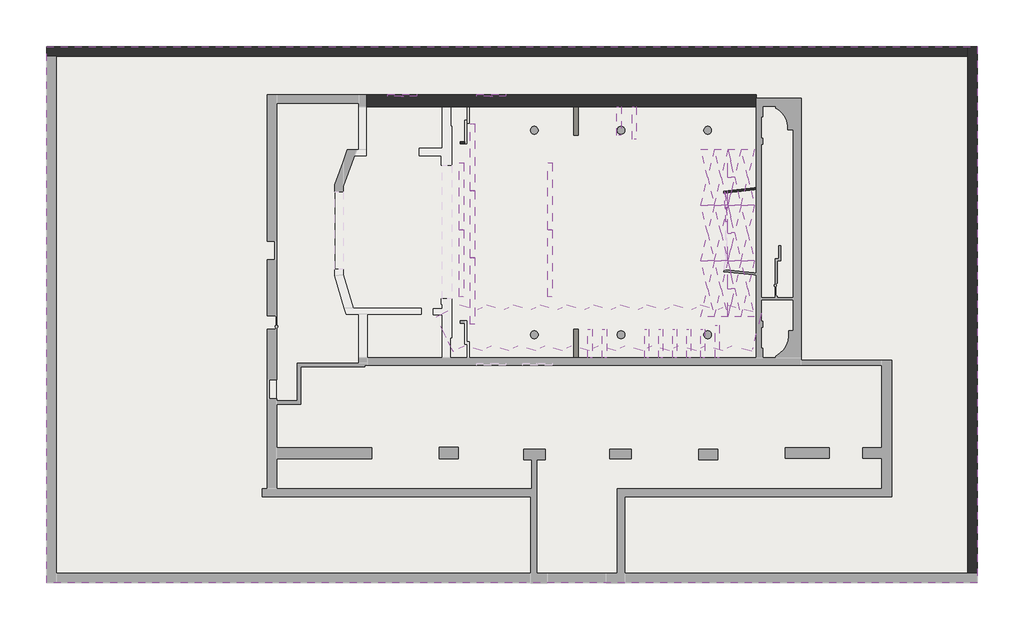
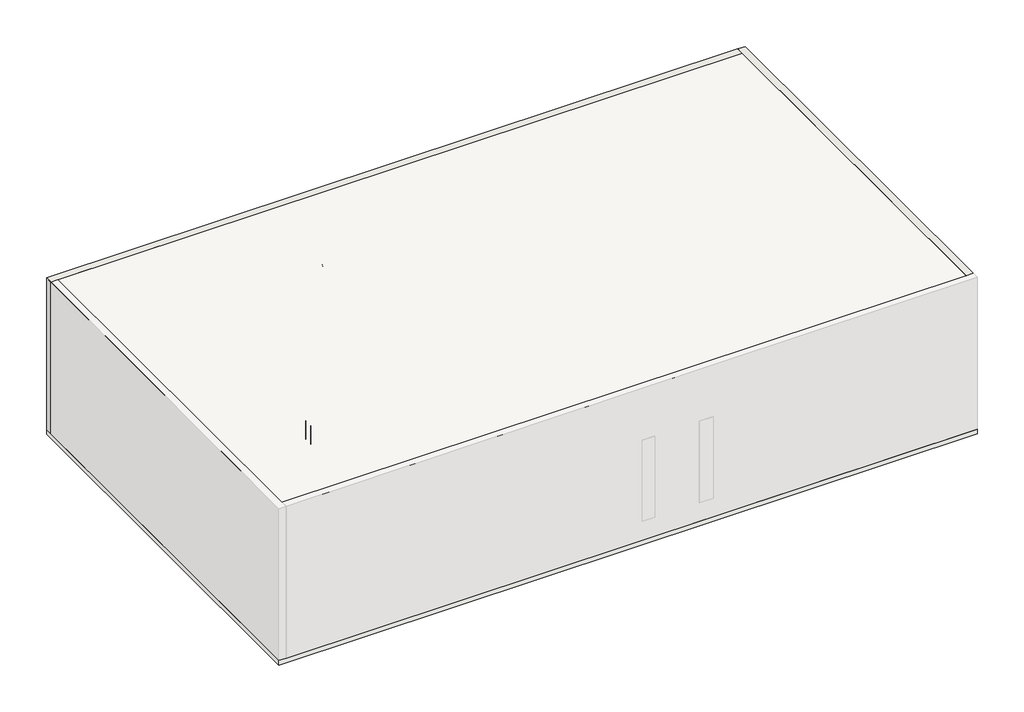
# One storey, part 2 of 2: 33 proxies, 14 slabs, 7 walls, 5 members, 2 doors.
"""IFC4 building model written with IfcOpenShell, lengths in millimetres."""

from ifc_helpers import new_model, si_unit, frame, origin, origin_with_axes, place, context, project, spatial, polyline, outline, extrude, faceted_brep, transform, mapped, element, save
from components import generic_models_0603ff23, generic_models_7f1d2376, generic_models_568cdfc9, generic_models_8c97f6f7, generic_models_10ad3b08, generic_models_ae4b16b1, generic_models_bff7fd6b, generic_models_0b0fc4db, generic_models_c0e9c4ef, generic_models_60d21524, generic_models_dc20eb05, door_110_110_x_220_7d12fde9, rectangular_mullion_50mm_x_65mm_85f5c3ba, rectangular_mullion_50mm_x_65mm_dd78f4de, rectangular_mullion_50mm_x_65mm_76db42fe

model = new_model("IFC4")

# Units and contexts
model_context = context("Model", 3, world=origin())
ifc_project = project(units=[si_unit("LENGTHUNIT", "METRE", prefix="MILLI")], contexts=[model_context])

# Site, building, storey
site = spatial("IfcSite", under=ifc_project)
building = spatial("IfcBuilding", under=site)
storey = spatial("IfcBuildingStorey", under=building, Name="0 NISKI PARTER", Elevation=-1240.0)

# Proxies
placement = place(None, origin())
generic_models_shape = generic_models_0603ff23(model_context)
element("IfcBuildingElementProxy", 1, Name="sztankiet : sztankiet", ObjectType="sztankiet : sztankiet", at=placement, inside=storey, context=model_context, shape_type="MappedRepresentation", body=[
    mapped(generic_models_shape, transform((139183.8729089, 57609.8940071, 0.0), x_axis=(1.0, 0.0, 0.0), y_axis=(0.0, 1.0, 0.0), z_axis=(0.0, 0.0, 1.0))),
])
generic_models_2_shape = generic_models_7f1d2376(model_context)
element("IfcBuildingElementProxy", 2, Name="sztankiet : sztankiet", ObjectType="sztankiet : sztankiet", at=placement, inside=storey, context=model_context, shape_type="MappedRepresentation", body=[
    mapped(generic_models_2_shape, transform((139183.8729089, 62609.8940071, 0.0), x_axis=(1.0, 0.0, 0.0), y_axis=(0.0, 1.0, 0.0), z_axis=(0.0, 0.0, 1.0))),
])
element("IfcBuildingElementProxy", 3, Name="sztankiet : sztankiet", ObjectType="sztankiet : sztankiet", at=placement, inside=storey, context=model_context, shape_type="MappedRepresentation", body=[
    mapped(generic_models_2_shape, transform((133380.4151146, 65525.8005963, 0.0), x_axis=(1.0, 0.0, 0.0), y_axis=(0.0, 1.0, 0.0), z_axis=(0.0, 0.0, 1.0))),
])
element("IfcBuildingElementProxy", 4, Name="sztankiet : sztankiet", ObjectType="sztankiet : sztankiet", at=placement, inside=storey, context=model_context, shape_type="MappedRepresentation", body=[
    mapped(generic_models_2_shape, transform((132580.4151146, 62609.8940071, 0.0), x_axis=(1.0, 0.0, 0.0), y_axis=(0.0, 1.0, 0.0), z_axis=(0.0, 0.0, 1.0))),
])
element("IfcBuildingElementProxy", 5, Name="sztankiet : sztankiet", ObjectType="sztankiet : sztankiet", at=placement, inside=storey, context=model_context, shape_type="MappedRepresentation", body=[
    mapped(generic_models_2_shape, transform((132580.4151146, 57609.8940071, 0.0), x_axis=(1.0, 0.0, 0.0), y_axis=(0.0, 1.0, 0.0), z_axis=(0.0, 0.0, 1.0))),
])
element("IfcBuildingElementProxy", 6, Name="sztankiet : sztankiet", ObjectType="sztankiet : sztankiet", at=placement, inside=storey, context=model_context, shape_type="MappedRepresentation", body=[
    mapped(generic_models_2_shape, transform((133380.4151146, 60525.8005963, 0.0), x_axis=(1.0, 0.0, 0.0), y_axis=(0.0, 1.0, 0.0), z_axis=(0.0, 0.0, 1.0))),
])
element("IfcBuildingElementProxy", 7, Name="sztankiet : sztankiet", ObjectType="sztankiet : sztankiet", at=placement, inside=storey, context=model_context, shape_type="MappedRepresentation", body=[
    mapped(generic_models_2_shape, transform((133380.4151146, 55525.8005963, 0.0), x_axis=(1.0, 0.0, 0.0), y_axis=(0.0, 1.0, 0.0), z_axis=(0.0, 0.0, 1.0))),
])
generic_models_3_shape = generic_models_568cdfc9(model_context)
element("IfcBuildingElementProxy", 8, Name="panel sufitowy 6 : panel sufitowy 6", ObjectType="panel sufitowy 6 : panel sufitowy 6", at=placement, inside=storey, context=model_context, shape_type="MappedRepresentation", body=[
    mapped(generic_models_3_shape, transform((154720.8729089, 50845.1997788, 5584.4603744), x_axis=(-1.0, 0.0, 0.0), y_axis=(0.0, -1.0, 0.0), z_axis=(0.0, 0.0, 1.0))),
])
element("IfcBuildingElementProxy", 9, Name="panel sufitowy 6 : panel sufitowy 6", ObjectType="panel sufitowy 6 : panel sufitowy 6", at=placement, inside=storey, context=model_context, shape_type="MappedRepresentation", body=[
    mapped(generic_models_3_shape, transform((154720.8729089, 55023.9981439, 5584.4603744), x_axis=(-1.0, 0.0, 0.0), y_axis=(0.0, -1.0, 0.0), z_axis=(0.0, 0.0, 1.0))),
])
element("IfcBuildingElementProxy", 10, Name="panel sufitowy 6 : panel sufitowy 6", ObjectType="panel sufitowy 6 : panel sufitowy 6", at=placement, inside=storey, context=model_context, shape_type="MappedRepresentation", body=[
    mapped(generic_models_3_shape, transform((154720.8729089, 59202.796509, 5584.4603744), x_axis=(-1.0, 0.0, 0.0), y_axis=(0.0, -1.0, 0.0), z_axis=(0.0, 0.0, 1.0))),
])
generic_models_4_shape = generic_models_8c97f6f7(model_context)
element("IfcBuildingElementProxy", 11, Name="panel sufitowy 6 : panel sufitowy 6", ObjectType="panel sufitowy 6 : panel sufitowy 6", at=placement, inside=storey, context=model_context, shape_type="MappedRepresentation", body=[
    mapped(generic_models_4_shape, transform((152745.9739623, 55525.1997788, 5102.9859098), x_axis=(-1.0, 0.0, 0.0), y_axis=(0.0, -1.0, 0.0), z_axis=(0.0, 0.0, 1.0))),
])
element("IfcBuildingElementProxy", 12, Name="panel sufitowy 6 : panel sufitowy 6", ObjectType="panel sufitowy 6 : panel sufitowy 6", at=placement, inside=storey, context=model_context, shape_type="MappedRepresentation", body=[
    mapped(generic_models_4_shape, transform((152745.9739623, 59703.9981439, 5102.9859098), x_axis=(-1.0, 0.0, 0.0), y_axis=(0.0, -1.0, 0.0), z_axis=(0.0, 0.0, 1.0))),
])
element("IfcBuildingElementProxy", 13, Name="panel sufitowy 6 : panel sufitowy 6", ObjectType="panel sufitowy 6 : panel sufitowy 6", at=placement, inside=storey, context=model_context, shape_type="MappedRepresentation", body=[
    mapped(generic_models_4_shape, transform((152745.9739623, 63882.796509, 5102.9859098), x_axis=(-1.0, 0.0, 0.0), y_axis=(0.0, -1.0, 0.0), z_axis=(0.0, 0.0, 1.0))),
])
generic_models_5_shape = generic_models_10ad3b08(model_context)
element("IfcBuildingElementProxy", 14, Name="panel sufitowy 6 : panel sufitowy 6", ObjectType="panel sufitowy 6 : panel sufitowy 6", at=placement, inside=storey, context=model_context, shape_type="MappedRepresentation", body=[
    mapped(generic_models_5_shape, transform((153743.8729089, 55525.1997788, 5298.4152581), x_axis=(-1.0, 0.0, 0.0), y_axis=(0.0, -1.0, 0.0), z_axis=(0.0, 0.0, 1.0))),
])
element("IfcBuildingElementProxy", 15, Name="panel sufitowy 6 : panel sufitowy 6", ObjectType="panel sufitowy 6 : panel sufitowy 6", at=placement, inside=storey, context=model_context, shape_type="MappedRepresentation", body=[
    mapped(generic_models_5_shape, transform((153743.8729089, 59703.9981439, 5298.4152581), x_axis=(-1.0, 0.0, 0.0), y_axis=(0.0, -1.0, 0.0), z_axis=(0.0, 0.0, 1.0))),
])
element("IfcBuildingElementProxy", 16, Name="panel sufitowy 6 : panel sufitowy 6", ObjectType="panel sufitowy 6 : panel sufitowy 6", at=placement, inside=storey, context=model_context, shape_type="MappedRepresentation", body=[
    mapped(generic_models_5_shape, transform((153743.8729089, 63882.796509, 5298.4152581), x_axis=(-1.0, 0.0, 0.0), y_axis=(0.0, -1.0, 0.0), z_axis=(0.0, 0.0, 1.0))),
])
generic_models_6_shape = generic_models_ae4b16b1(model_context)
element("IfcBuildingElementProxy", 17, Name="panel sufitowy 6 : panel sufitowy 6", ObjectType="panel sufitowy 6 : panel sufitowy 6", at=placement, inside=storey, context=model_context, shape_type="MappedRepresentation", body=[
    mapped(generic_models_6_shape, transform((152745.9739623, 50845.1997788, 5102.9859098), x_axis=(-1.0, 0.0, 0.0), y_axis=(0.0, -1.0, 0.0), z_axis=(0.0, 0.0, 1.0))),
])
element("IfcBuildingElementProxy", 18, Name="panel sufitowy 6 : panel sufitowy 6", ObjectType="panel sufitowy 6 : panel sufitowy 6", at=placement, inside=storey, context=model_context, shape_type="MappedRepresentation", body=[
    mapped(generic_models_6_shape, transform((152745.9739623, 55023.9981439, 5102.9859098), x_axis=(-1.0, 0.0, 0.0), y_axis=(0.0, -1.0, 0.0), z_axis=(0.0, 0.0, 1.0))),
])
element("IfcBuildingElementProxy", 19, Name="panel sufitowy 6 : panel sufitowy 6", ObjectType="panel sufitowy 6 : panel sufitowy 6", at=placement, inside=storey, context=model_context, shape_type="MappedRepresentation", body=[
    mapped(generic_models_6_shape, transform((152745.9739623, 59202.796509, 5102.9859098), x_axis=(-1.0, 0.0, 0.0), y_axis=(0.0, -1.0, 0.0), z_axis=(0.0, 0.0, 1.0))),
])
generic_models_7_shape = generic_models_bff7fd6b(model_context)
element("IfcBuildingElementProxy", 20, Name="panel sufitowy 6 : panel sufitowy 6", ObjectType="panel sufitowy 6 : panel sufitowy 6", at=placement, inside=storey, context=model_context, shape_type="MappedRepresentation", body=[
    mapped(generic_models_7_shape, transform((153743.8729089, 50845.1997788, 5298.4152581), x_axis=(-1.0, 0.0, 0.0), y_axis=(0.0, -1.0, 0.0), z_axis=(0.0, 0.0, 1.0))),
])
element("IfcBuildingElementProxy", 21, Name="panel sufitowy 6 : panel sufitowy 6", ObjectType="panel sufitowy 6 : panel sufitowy 6", at=placement, inside=storey, context=model_context, shape_type="MappedRepresentation", body=[
    mapped(generic_models_7_shape, transform((153743.8729089, 55023.9981439, 5298.4152581), x_axis=(-1.0, 0.0, 0.0), y_axis=(0.0, -1.0, 0.0), z_axis=(0.0, 0.0, 1.0))),
])
element("IfcBuildingElementProxy", 22, Name="panel sufitowy 6 : panel sufitowy 6", ObjectType="panel sufitowy 6 : panel sufitowy 6", at=placement, inside=storey, context=model_context, shape_type="MappedRepresentation", body=[
    mapped(generic_models_7_shape, transform((153743.8729089, 59202.796509, 5298.4152581), x_axis=(-1.0, 0.0, 0.0), y_axis=(0.0, -1.0, 0.0), z_axis=(0.0, 0.0, 1.0))),
])
generic_models_8_shape = generic_models_0b0fc4db(model_context)
element("IfcBuildingElementProxy", 23, Name="Generic Models", at=placement, inside=storey, context=model_context, shape_type="MappedRepresentation", body=[
    mapped(generic_models_8_shape, transform((0.0, 0.0, 0.0), x_axis=(1.0, 0.0, 0.0), y_axis=(0.0, 1.0, 0.0), z_axis=(0.0, 0.0, 1.0))),
])
element("IfcBuildingElementProxy", 24, Name="Generic Models", at=placement, inside=storey, context=model_context, shape_type="MappedRepresentation", body=[
    mapped(generic_models_8_shape, transform((0.0, 0.0, 0.0), x_axis=(1.0, 0.0, 0.0), y_axis=(0.0, 1.0, 0.0), z_axis=(0.0, 0.0, 1.0))),
])
generic_models_9_shape = generic_models_c0e9c4ef(model_context)
element("IfcBuildingElementProxy", 25, Name="panel sufitowy 6 : panel sufitowy 6", ObjectType="panel sufitowy 6 : panel sufitowy 6", at=placement, inside=storey, context=model_context, shape_type="MappedRepresentation", body=[
    mapped(generic_models_9_shape, transform((154720.8729089, 55525.1997788, 5584.4603744), x_axis=(-1.0, 0.0, 0.0), y_axis=(0.0, -1.0, 0.0), z_axis=(0.0, 0.0, 1.0))),
])
element("IfcBuildingElementProxy", 26, Name="panel sufitowy 6 : panel sufitowy 6", ObjectType="panel sufitowy 6 : panel sufitowy 6", at=placement, inside=storey, context=model_context, shape_type="MappedRepresentation", body=[
    mapped(generic_models_9_shape, transform((154720.8729089, 59703.9981439, 5584.4603744), x_axis=(-1.0, 0.0, 0.0), y_axis=(0.0, -1.0, 0.0), z_axis=(0.0, 0.0, 1.0))),
])
element("IfcBuildingElementProxy", 27, Name="panel sufitowy 6 : panel sufitowy 6", ObjectType="panel sufitowy 6 : panel sufitowy 6", at=placement, inside=storey, context=model_context, shape_type="MappedRepresentation", body=[
    mapped(generic_models_9_shape, transform((154720.8729089, 63882.796509, 5584.4603744), x_axis=(-1.0, 0.0, 0.0), y_axis=(0.0, -1.0, 0.0), z_axis=(0.0, 0.0, 1.0))),
])
generic_models_10_shape = generic_models_60d21524(model_context)
element("IfcBuildingElementProxy", 28, Name="panel sufitowy 6 : panel sufitowy 6", ObjectType="panel sufitowy 6 : panel sufitowy 6", at=placement, inside=storey, context=model_context, shape_type="MappedRepresentation", body=[
    mapped(generic_models_10_shape, transform((151739.0367002, 55525.1997788, 4977.6048645), x_axis=(-1.0, 0.0, 0.0), y_axis=(0.0, -1.0, 0.0), z_axis=(0.0, 0.0, 1.0))),
])
element("IfcBuildingElementProxy", 29, Name="panel sufitowy 6 : panel sufitowy 6", ObjectType="panel sufitowy 6 : panel sufitowy 6", at=placement, inside=storey, context=model_context, shape_type="MappedRepresentation", body=[
    mapped(generic_models_10_shape, transform((151739.0367002, 59703.9981439, 4977.6048645), x_axis=(-1.0, 0.0, 0.0), y_axis=(0.0, -1.0, 0.0), z_axis=(0.0, 0.0, 1.0))),
])
element("IfcBuildingElementProxy", 30, Name="panel sufitowy 6 : panel sufitowy 6", ObjectType="panel sufitowy 6 : panel sufitowy 6", at=placement, inside=storey, context=model_context, shape_type="MappedRepresentation", body=[
    mapped(generic_models_10_shape, transform((151739.0367002, 63882.796509, 4977.6048645), x_axis=(-1.0, 0.0, 0.0), y_axis=(0.0, -1.0, 0.0), z_axis=(0.0, 0.0, 1.0))),
])
generic_models_11_shape = generic_models_dc20eb05(model_context)
element("IfcBuildingElementProxy", 31, Name="panel sufitowy 6 : panel sufitowy 6", ObjectType="panel sufitowy 6 : panel sufitowy 6", at=placement, inside=storey, context=model_context, shape_type="MappedRepresentation", body=[
    mapped(generic_models_11_shape, transform((151739.0367002, 50845.1997788, 4977.6048645), x_axis=(-1.0, 0.0, 0.0), y_axis=(0.0, -1.0, 0.0), z_axis=(0.0, 0.0, 1.0))),
])
element("IfcBuildingElementProxy", 32, Name="panel sufitowy 6 : panel sufitowy 6", ObjectType="panel sufitowy 6 : panel sufitowy 6", at=placement, inside=storey, context=model_context, shape_type="MappedRepresentation", body=[
    mapped(generic_models_11_shape, transform((151739.0367002, 55023.9981439, 4977.6048645), x_axis=(-1.0, 0.0, 0.0), y_axis=(0.0, -1.0, 0.0), z_axis=(0.0, 0.0, 1.0))),
])
element("IfcBuildingElementProxy", 33, Name="panel sufitowy 6 : panel sufitowy 6", ObjectType="panel sufitowy 6 : panel sufitowy 6", at=placement, inside=storey, context=model_context, shape_type="MappedRepresentation", body=[
    mapped(generic_models_11_shape, transform((151739.0367002, 59202.796509, 4977.6048645), x_axis=(-1.0, 0.0, 0.0), y_axis=(0.0, -1.0, 0.0), z_axis=(0.0, 0.0, 1.0))),
])

# Doors
door_110_110_x_220_shape = door_110_110_x_220_7d12fde9(model_context)
element("IfcDoor", 34, ObjectType="Door_Matrix 70_Double_Veka_Double Glazing_Outward Opening_Frame 67mm : 110 + 110 X 220", at=placement, inside=storey, context=model_context, shape_type="MappedRepresentation", body=[
    mapped(door_110_110_x_220_shape, transform((128123.8729089, 67270.8005963, 0.0), x_axis=(1.0, 0.0, 0.0), y_axis=(0.0, 1.0, 0.0), z_axis=(0.0, 0.0, 1.0))),
])
element("IfcDoor", 35, ObjectType="Door_Matrix 70_Double_Veka_Double Glazing_Outward Opening_Frame 67mm : 110 + 110 X 220", at=placement, inside=storey, context=model_context, shape_type="MappedRepresentation", body=[
    mapped(door_110_110_x_220_shape, transform((134792.8729089, 67270.8005963, 0.0), x_axis=(1.0, 0.0, 0.0), y_axis=(0.0, 1.0, 0.0), z_axis=(0.0, 0.0, 1.0))),
])

# Members
rectangular_mullion_50mm_x_65mm_shape = rectangular_mullion_50mm_x_65mm_85f5c3ba(model_context)
element("IfcMember", 36, ObjectType="Rectangular Mullion : 50mm x 65mm", at=placement, inside=storey, context=model_context, shape_type="MappedRepresentation", body=[
    mapped(rectangular_mullion_50mm_x_65mm_shape, transform((152258.7180636, 60308.9333387, 3620.0), x_axis=(0.0, 0.0, -1.0), y_axis=(-0.9966862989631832, -0.08134138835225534, 0.0), z_axis=(-0.08134138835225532, 0.9966862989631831, 0.0))),
])
rectangular_mullion_50mm_x_65mm_2_shape = rectangular_mullion_50mm_x_65mm_dd78f4de(model_context)
element("IfcMember", 37, ObjectType="Rectangular Mullion : 50mm x 65mm", at=placement, inside=storey, context=model_context, shape_type="MappedRepresentation", body=[
    mapped(rectangular_mullion_50mm_x_65mm_2_shape, transform((152349.2324844, 59171.2605707, 3620.0), x_axis=(0.0, 0.0, -1.0), y_axis=(-0.9993908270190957, -0.03489949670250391, 0.0), z_axis=(-0.03489949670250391, 0.9993908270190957, 0.0))),
])
rectangular_mullion_50mm_x_65mm_3_shape = rectangular_mullion_50mm_x_65mm_76db42fe(model_context)
element("IfcMember", 38, ObjectType="Rectangular Mullion : 50mm x 65mm", at=placement, inside=storey, context=model_context, shape_type="MappedRepresentation", body=[
    mapped(rectangular_mullion_50mm_x_65mm_3_shape, transform((152347.4875095, 59221.230112, 3620.0), x_axis=(0.08134138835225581, -0.9966862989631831, 0.0), y_axis=(-0.9966862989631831, -0.08134138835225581, 0.0), z_axis=(0.0, 0.0, -1.0))),
])
element("IfcMember", 39, ObjectType="Rectangular Mullion : 50mm x 65mm", at=placement, inside=storey, context=model_context, shape_type="MappedRepresentation", body=[
    mapped(rectangular_mullion_50mm_x_65mm_3_shape, transform((152254.6509941, 60358.7676536, 8800.0), x_axis=(-0.08134138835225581, 0.9966862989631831, 0.0), y_axis=(-0.9966862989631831, -0.08134138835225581, 0.0), z_axis=(0.0, 0.0, 1.0))),
])
element("IfcMember", 40, ObjectType="Rectangular Mullion : 50mm x 65mm", at=placement, inside=storey, context=model_context, shape_type="MappedRepresentation", body=[
    mapped(rectangular_mullion_50mm_x_65mm_3_shape, transform((152347.4875095, 59221.230112, 8800.0), x_axis=(-0.034899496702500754, 0.9993908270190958, 0.0), y_axis=(-0.9993908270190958, -0.034899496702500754, 0.0), z_axis=(0.0, 0.0, 1.0))),
])

# Slabs
element("IfcSlab", 41, ObjectType="Strop 50 cm", at=placement, inside=storey, context=model_context, shape_type="SweptSolid", body=[
    extrude(outline(polyline([(124863.8729089, 67065.8005963), (124863.8729089, 63590.8005963), (124032.8926247, 63590.8005963), (123063.8729089, 60980.5910359), (123063.8729089, 54160.8005963), (123927.3541376, 51285.8005963), (124863.8729089, 51285.8005963), (124863.8729089, 47605.8005963), (120273.8729089, 47605.8005963), (120273.8729089, 44795.8005963), (118743.8729089, 44795.8005963), (118743.8729089, 67065.8005963), (124863.8729089, 67065.8005963)])), frame((0.0, 0.0, -1740.0), z_axis=(0.0, 0.0, 1.0), x_axis=(1.0, 0.0, 0.0)), (0.0, 0.0, 1.0), 500.0),
])
element("IfcSlab", 42, ObjectType="Strop 50 cm", at=placement, inside=storey, context=model_context, shape_type="SweptSolid", body=[
    extrude(outline(polyline([(141298.769132, 64665.8005963), (140958.769132, 64665.8005963), (140958.769132, 66815.8005963), (141298.769132, 66815.8005963), (141298.769132, 64665.8005963)])), frame((0.0, 0.0, -116.0), z_axis=(0.0, 0.0, 1.0), x_axis=(1.0, 0.0, 0.0)), (0.0, 0.0, 1.0), 500.0),
    extrude(outline(polyline([(140946.1252529, 48015.8005963), (140946.1252529, 50165.8005963), (141286.1252529, 50165.8005963), (141286.1252529, 48015.8005963), (140946.1252529, 48015.8005963)])), frame((0.0, 0.0, -116.0), z_axis=(0.0, 0.0, 1.0), x_axis=(1.0, 0.0, 0.0)), (0.0, 0.0, 1.0), 500.0),
])
element("IfcSlab", 43, ObjectType="Strop 50 cm", at=placement, inside=storey, context=model_context, shape_type="SweptSolid", body=[
    extrude(outline(polyline([(142373.5069266, 64665.8005963), (142043.5069266, 64665.8005963), (142043.5069266, 66815.8005963), (142373.5069266, 66815.8005963), (142373.5069266, 64665.8005963)])), frame((0.0, 0.0, 153.0), z_axis=(0.0, 0.0, 1.0), x_axis=(1.0, 0.0, 0.0)), (0.0, 0.0, 1.0), 500.0),
    extrude(outline(polyline([(142030.8630475, 48015.8005963), (142030.8630475, 50165.8005963), (142360.8630475, 50165.8005963), (142360.8630475, 48015.8005963), (142030.8630475, 48015.8005963)])), frame((0.0, 0.0, 153.0), z_axis=(0.0, 0.0, 1.0), x_axis=(1.0, 0.0, 0.0)), (0.0, 0.0, 1.0), 500.0),
])
element("IfcSlab", 44, ObjectType="Strop 50 cm", at=placement, inside=storey, context=model_context, shape_type="SweptSolid", body=[
    extrude(outline(polyline([(143440.521723, 64665.8005963), (143120.521723, 64665.8005963), (143120.521723, 66815.8005963), (143440.521723, 66815.8005963), (143440.521723, 64665.8005963)])), frame((0.0, 0.0, 433.0), z_axis=(0.0, 0.0, 1.0), x_axis=(1.0, 0.0, 0.0)), (0.0, 0.0, 1.0), 500.0),
    extrude(outline(polyline([(143107.8778438, 48015.8005963), (143107.8778438, 50165.8005963), (143427.8778438, 50165.8005963), (143427.8778438, 48015.8005963), (143107.8778438, 48015.8005963)])), frame((0.0, 0.0, 433.0), z_axis=(0.0, 0.0, 1.0), x_axis=(1.0, 0.0, 0.0)), (0.0, 0.0, 1.0), 500.0),
])
element("IfcSlab", 45, ObjectType="Strop 50 cm", at=placement, inside=storey, context=model_context, shape_type="SweptSolid", body=[
    extrude(outline(polyline([(144500.9832854, 64664.3596942), (144190.9832854, 64664.3596942), (144190.9832854, 66815.8005963), (144500.9832854, 66815.8005963), (144500.9832854, 64664.3596942)])), frame((0.0, 0.0, 720.0), z_axis=(0.0, 0.0, 1.0), x_axis=(1.0, 0.0, 0.0)), (0.0, 0.0, 1.0), 500.0),
    extrude(outline(polyline([(144488.3394063, 50167.2414984), (144488.3394063, 48015.8005963), (144178.3394063, 48015.8005963), (144178.3394063, 50167.2414984), (144488.3394063, 50167.2414984)])), frame((0.0, 0.0, 720.0), z_axis=(0.0, 0.0, 1.0), x_axis=(1.0, 0.0, 0.0)), (0.0, 0.0, 1.0), 500.0),
])
element("IfcSlab", 46, ObjectType="Strop 50 cm", at=placement, inside=storey, context=model_context, shape_type="SweptSolid", body=[
    extrude(outline(polyline([(145351.3769603, 64367.435042), (145351.3769603, 66815.8005963), (145651.3769603, 66815.8005963), (145651.3769603, 64367.435042), (145351.3769603, 64367.435042)])), frame((0.0, 0.0, 1018.0), z_axis=(0.0, 0.0, 1.0), x_axis=(1.0, 0.0, 0.0)), (0.0, 0.0, 1.0), 500.0),
    extrude(outline(polyline([(145638.7330811, 50464.16217), (145638.7330811, 48015.8005963), (145338.7330811, 48015.8005963), (145338.7330811, 50464.16217), (145638.7330811, 50464.16217)])), frame((0.0, 0.0, 1018.0), z_axis=(0.0, 0.0, 1.0), x_axis=(1.0, 0.0, 0.0)), (0.0, 0.0, 1.0), 500.0),
])
element("IfcSlab", 47, ObjectType="Strop 50 cm", at=placement, inside=storey, context=model_context, shape_type="SweptSolid", body=[
    extrude(outline(polyline([(146305.8299046, 66815.8005963), (146605.8299046, 66815.8005963), (146605.8299046, 64665.8005963), (146305.8299046, 64665.8005963), (146305.8299046, 66815.8005963)])), frame((0.0, 0.0, 1322.0), z_axis=(0.0, 0.0, 1.0), x_axis=(1.0, 0.0, 0.0)), (0.0, 0.0, 1.0), 500.0),
    extrude(outline(polyline([(146593.1860254, 50165.8005963), (146593.1860254, 48015.8005963), (146293.1860254, 48015.8005963), (146293.1860254, 50165.8005963), (146593.1860254, 50165.8005963)])), frame((0.0, 0.0, 1322.0), z_axis=(0.0, 0.0, 1.0), x_axis=(1.0, 0.0, 0.0)), (0.0, 0.0, 1.0), 500.0),
])
element("IfcSlab", 48, ObjectType="Strop 50 cm", at=placement, inside=storey, context=model_context, shape_type="SweptSolid", body=[
    extrude(outline(polyline([(147651.6083902, 64665.8005963), (147351.6083902, 64665.8005963), (147351.6083902, 66815.8005963), (147651.6083902, 66815.8005963), (147651.6083902, 64665.8005963)])), frame((0.0, 0.0, 1635.0), z_axis=(0.0, 0.0, 1.0), x_axis=(1.0, 0.0, 0.0)), (0.0, 0.0, 1.0), 500.0),
    extrude(outline(polyline([(147638.9645111, 50165.8005963), (147638.9645111, 48015.8005963), (147338.9645111, 48015.8005963), (147338.9645111, 50165.8005963), (147638.9645111, 50165.8005963)])), frame((0.0, 0.0, 1635.0), z_axis=(0.0, 0.0, 1.0), x_axis=(1.0, 0.0, 0.0)), (0.0, 0.0, 1.0), 500.0),
])
element("IfcSlab", 49, ObjectType="Strop 50 cm", at=placement, inside=storey, context=model_context, shape_type="SweptSolid", body=[
    extrude(outline(polyline([(148681.0455527, 48015.8005963), (148381.0455527, 48015.8005963), (148381.0455527, 50165.8005963), (148681.0455527, 50165.8005963), (148681.0455527, 48015.8005963)])), frame((0.0, 0.0, 1951.0), z_axis=(0.0, 0.0, 1.0), x_axis=(1.0, 0.0, 0.0)), (0.0, 0.0, 1.0), 500.0),
    extrude(outline(polyline([(148693.6894318, 64665.8005963), (148393.6894318, 64665.8005963), (148393.6894318, 66815.8005963), (148693.6894318, 66815.8005963), (148693.6894318, 64665.8005963)])), frame((0.0, 0.0, 1951.0), z_axis=(0.0, 0.0, 1.0), x_axis=(1.0, 0.0, 0.0)), (0.0, 0.0, 1.0), 500.0),
])
element("IfcSlab", 50, ObjectType="Strop 50 cm", at=placement, inside=storey, context=model_context, shape_type="SweptSolid", body=[
    extrude(outline(polyline([(149732.5114427, 66815.8005963), (149732.5114427, 64665.8005963), (149432.5114427, 64665.8005963), (149432.5114427, 66815.8005963), (149732.5114427, 66815.8005963)])), frame((0.0, 0.0, 2277.0), z_axis=(0.0, 0.0, 1.0), x_axis=(1.0, 0.0, 0.0)), (0.0, 0.0, 1.0), 500.0),
    extrude(outline(polyline([(149719.8675635, 50165.8005963), (149719.8675635, 48015.8005963), (149419.8675635, 48015.8005963), (149419.8675635, 50165.8005963), (149719.8675635, 50165.8005963)])), frame((0.0, 0.0, 2277.0), z_axis=(0.0, 0.0, 1.0), x_axis=(1.0, 0.0, 0.0)), (0.0, 0.0, 1.0), 500.0),
])
element("IfcSlab", 51, ObjectType="Strop 50 cm", at=placement, inside=storey, context=model_context, shape_type="SweptSolid", body=[
    extrude(outline(polyline([(150755.801201, 48015.8005963), (150455.801201, 48015.8005963), (150455.801201, 50165.8005963), (150755.801201, 50165.8005963), (150755.801201, 48015.8005963)])), frame((0.0, 0.0, 2610.0), z_axis=(0.0, 0.0, 1.0), x_axis=(1.0, 0.0, 0.0)), (0.0, 0.0, 1.0), 500.0),
    extrude(outline(polyline([(150768.4450802, 64665.8005963), (150468.4450802, 64665.8005963), (150468.4450802, 66815.8005963), (150768.4450802, 66815.8005963), (150768.4450802, 64665.8005963)])), frame((0.0, 0.0, 2610.0), z_axis=(0.0, 0.0, 1.0), x_axis=(1.0, 0.0, 0.0)), (0.0, 0.0, 1.0), 500.0),
])
element("IfcSlab", 52, ObjectType="Strop 50 cm", at=placement, inside=storey, context=model_context, shape_type="SweptSolid", body=[
    extrude(outline(polyline([(151863.4969962, 66815.8005963), (151863.4969962, 64406.3405963), (151563.4969962, 64406.3405963), (151563.4969962, 66815.8005963), (151863.4969962, 66815.8005963)])), frame((0.0, 0.0, 2948.0), z_axis=(0.0, 0.0, 1.0), x_axis=(1.0, 0.0, 0.0)), (0.0, 0.0, 1.0), 500.0),
    extrude(outline(polyline([(151863.4969962, 50465.8005963), (151863.4969962, 48015.8005963), (151563.4969962, 48015.8005963), (151563.4969962, 50465.8005963), (151863.4969962, 50465.8005963)])), frame((0.0, 0.0, 2948.0), z_axis=(0.0, 0.0, 1.0), x_axis=(1.0, 0.0, 0.0)), (0.0, 0.0, 1.0), 500.0),
])
element("IfcSlab", 53, ObjectType="Strop 50 cm", at=placement, inside=storey, context=model_context, shape_type="SweptSolid", body=[
    extrude(outline(polyline([(171173.8729089, 71315.8005963), (171173.8729089, 31195.8005963), (101513.8729089, 31195.8005963), (101513.8729089, 71315.8005963), (171173.8729089, 71315.8005963)])), frame((0.0, 0.0, 12260.0), z_axis=(0.0, 0.0, 1.0), x_axis=(1.0, 0.0, 0.0)), (0.0, 0.0, 1.0), 500.0),
])
element("IfcSlab", 54, ObjectType="Strop 50 cm", at=placement, inside=storey, context=model_context, shape_type="SweptSolid", body=[
    extrude(outline(polyline([(171173.8729089, 71315.8005963), (171173.8729089, 31195.8005963), (101513.8729089, 31195.8005963), (101513.8729089, 71315.8005963), (171173.8729089, 71315.8005963)])), frame((0.0, 0.0, -3740.0), z_axis=(0.0, 0.0, 1.0), x_axis=(1.0, 0.0, 0.0)), (0.0, 0.0, 1.0), 500.0),
])

# Walls
element("IfcWall", 55, ObjectType="SCN_15 cm", at=placement, inside=storey, context=model_context, shape_type="SweptSolid", body=[
    extrude(outline(polyline([(152187.2394842, 60502.5086604), (154801.0332742, 60777.2294578), (154816.7125437, 60628.0511735), (152202.9187537, 60353.3303761), (152187.2394842, 60502.5086604)])), frame((0.0, 0.0, -1240.0), z_axis=(0.0, 0.0, 1.0), x_axis=(1.0, 0.0, 0.0)), (0.0, 0.0, 1.0), 10040.0),
])
element("IfcWall", 56, ObjectType="SCN_15 cm", at=placement, inside=storey, context=model_context, shape_type="SweptSolid", body=[
    extrude(outline(polyline([(133003.8729089, 65590.8005963), (133003.8729089, 66815.8005963), (133153.8729089, 66815.8005963), (133153.8729089, 65590.8005963), (133003.8729089, 65590.8005963)])), frame((0.0, 0.0, -1240.0), z_axis=(0.0, 0.0, 1.0), x_axis=(1.0, 0.0, 0.0)), (0.0, 0.0, 1.0), 740.0),
    extrude(outline(polyline([(133003.8729089, 65590.8005963), (133003.8729089, 66815.8005963), (133153.8729089, 66815.8005963), (133153.8729089, 65590.8005963), (133003.8729089, 65590.8005963)])), origin_with_axes(), (0.0, 0.0, 1.0), 8800.0),
])
element("IfcWall", 57, ObjectType="SCN_15 cm", at=placement, inside=storey, context=model_context, shape_type="Brep", body=[
    faceted_brep([(132823.8729089, 65795.8005963, -1240.0), (132823.8729089, 64200.8005963, -1240.0), (132823.8729089, 64050.8005963, -1240.0), (132823.8729089, 64050.8005963, -500.0), (132823.8729089, 65795.8005963, -500.0), (132973.8729089, 64050.8005963, -1240.0), (132973.8729089, 65795.8005963, -1240.0), (132973.8729089, 65795.8005963, -500.0), (132973.8729089, 64050.8005963, -500.0)], [[[0, 1, 2, 3, 4]], [[5, 6, 7, 8]], [[2, 1, 0, 6, 5]], [[6, 0, 4, 7]], [[2, 5, 8, 3]], [[4, 3, 8, 7]]]),
    faceted_brep([(132823.8729089, 64050.8005963, 8800.0), (132823.8729089, 64200.8005963, 8800.0), (132823.8729089, 65795.8005963, 8800.0), (132823.8729089, 65795.8005963, 0.0), (132823.8729089, 64050.8005963, 0.0), (132973.8729089, 65795.8005963, 8800.0), (132973.8729089, 64050.8005963, 8800.0), (132973.8729089, 64050.8005963, 0.0), (132973.8729089, 65795.8005963, 0.0)], [[[0, 1, 2, 3, 4]], [[5, 6, 7, 8]], [[2, 1, 0, 6, 5]], [[2, 5, 8, 3]], [[6, 0, 4, 7]], [[4, 3, 8, 7]]]),
])
element("IfcWall", 58, ObjectType="SCN_15 cm", at=placement, inside=storey, context=model_context, shape_type="SweptSolid", body=[
    extrude(outline(polyline([(132463.8729089, 64200.8005963), (132823.8729089, 64200.8005963), (132823.8729089, 64050.8005963), (132463.8729089, 64050.8005963), (132463.8729089, 64200.8005963)])), frame((0.0, 0.0, -1240.0), z_axis=(0.0, 0.0, 1.0), x_axis=(1.0, 0.0, 0.0)), (0.0, 0.0, 1.0), 10040.0),
])
element("IfcWall", 59, ObjectType="SCN_72 cm", at=placement, inside=storey, context=model_context, shape_type="Brep", body=[
    faceted_brep([(101513.8729089, 70595.8005963, -3239.9999999), (102233.8729089, 70595.8005963, -3239.9999999), (170453.8729089, 70595.8005963, -3239.9999999), (170453.8729089, 70595.8005963, 12760.0000001), (102233.8729089, 70595.8005963, 12760.0000001), (101513.8729089, 70595.8005963, 12760.0000001), (101513.8729089, 71315.8005963, -3239.9999999), (101513.8729089, 71315.8005963, 12760.0000001), (170453.8729089, 71315.8005963, 12760.0000001), (170453.8729089, 71315.8005963, -3239.9999999)], [[[0, 1, 2, 3, 4, 5]], [[6, 7, 8, 9]], [[2, 1, 0, 6, 9]], [[5, 4, 3, 8, 7]], [[0, 5, 7, 6]], [[3, 2, 9, 8]]]),
])
element("IfcWall", 60, ObjectType="SCN_72 cm", at=placement, inside=storey, context=model_context, shape_type="Brep", body=[
    faceted_brep([(170453.8729089, 71315.8005963, -3239.9999999), (170453.8729089, 70595.8005963, -3239.9999999), (170453.8729089, 31915.8005963, -3239.9999999), (170453.8729089, 31915.8005963, 12760.0000001), (170453.8729089, 70595.8005963, 12760.0000001), (170453.8729089, 71315.8005963, 12760.0000001), (171173.8729089, 71315.8005963, -3239.9999999), (171173.8729089, 71315.8005963, 12760.0000001), (171173.8729089, 31915.8005963, 12760.0000001), (171173.8729089, 31915.8005963, -3239.9999999)], [[[0, 1, 2, 3, 4, 5]], [[6, 7, 8, 9]], [[2, 1, 0, 6, 9]], [[5, 4, 3, 8, 7]], [[0, 5, 7, 6]], [[3, 2, 9, 8]]]),
])
element("IfcWall", 61, ObjectType="SCN_91 CM", at=placement, inside=storey, context=model_context, shape_type="Brep", body=[
    faceted_brep([(154613.8729089, 67725.8005963, -1240.0), (125453.8729089, 67725.8005963, -1240.0), (125453.8729089, 67725.8005963, 10760.0), (154613.8729089, 67725.8005963, 10760.0), (129223.8729089, 67725.8005963, 0.0), (129223.8729089, 67725.8005963, 2100.0), (127023.8729089, 67725.8005963, 2100.0), (127023.8729089, 67725.8005963, 0.0), (135892.8729089, 67725.8005963, 0.0), (135892.8729089, 67725.8005963, 2100.0), (133692.8729089, 67725.8005963, 2100.0), (133692.8729089, 67725.8005963, 0.0), (125453.8729089, 66815.8005963, -1240.0), (133003.8729089, 66815.8005963, -1240.0), (133153.8729089, 66815.8005963, -1240.0), (154613.8729089, 66815.8005963, -1240.0), (154613.8729089, 66815.8005963, 10760.0), (125453.8729089, 66815.8005963, 10760.0), (125453.8729089, 66815.8005963, 0.0), (125453.8729089, 66815.8005963, -500.0), (129223.8729089, 66815.8005963, 2100.0), (129223.8729089, 66815.8005963, 0.0), (127023.8729089, 66815.8005963, 0.0), (127023.8729089, 66815.8005963, 2100.0), (135892.8729089, 66815.8005963, 2100.0), (135892.8729089, 66815.8005963, 0.0), (133692.8729089, 66815.8005963, 0.0), (133692.8729089, 66815.8005963, 2100.0)], [[[0, 1, 2, 3], [4, 5, 6, 7], [8, 9, 10, 11]], [[12, 13, 14, 15, 16, 17, 18, 19], [20, 21, 22, 23], [24, 25, 26, 27]], [[1, 0, 15, 14, 13, 12]], [[3, 2, 17, 16]], [[0, 3, 16, 15]], [[4, 21, 20, 5]], [[5, 20, 23, 6]], [[6, 23, 22, 7]], [[21, 4, 7, 22]], [[8, 25, 24, 9]], [[9, 24, 27, 10]], [[26, 11, 10, 27]], [[25, 8, 11, 26]], [[1, 12, 19, 18, 17, 2]]]),
])

save(model, "model.ifc")
